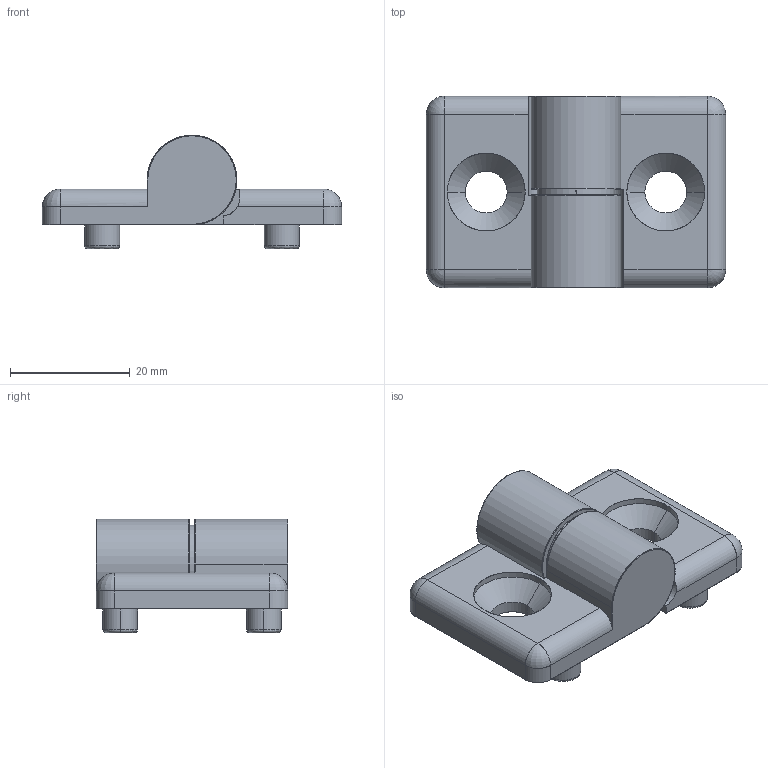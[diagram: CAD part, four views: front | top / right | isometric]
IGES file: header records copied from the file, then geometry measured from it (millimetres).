
Start section: SolidWorks IGES file using analytic representation for surfaces
Global section: file name: C:\Users\admin\Desktop\IGES\J3PL.igs; native system: SolidWorks 2014; preprocessor: SolidWorks 2014; author: admin_pc; date: 170524.165934; units: millimetre
Bounding box: 50 x 32 x 19 mm (x, y, z)
Surface area: 7267.3 mm2 (no closed solid volume)
Topology: 0 solids, 0 shells, 120 faces, 1640 edges, 1640 vertices
Faces by surface type: revolution 72, bspline 48
